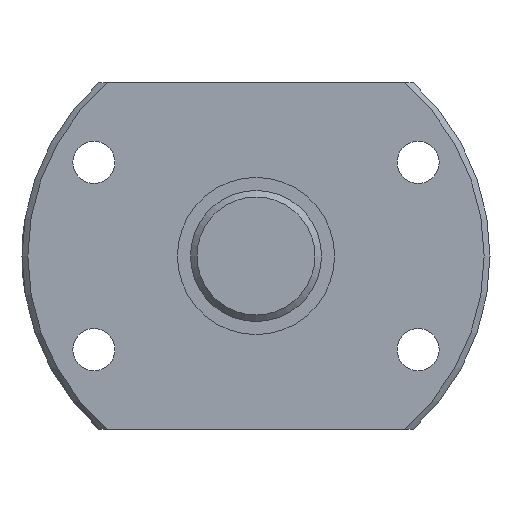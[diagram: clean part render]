
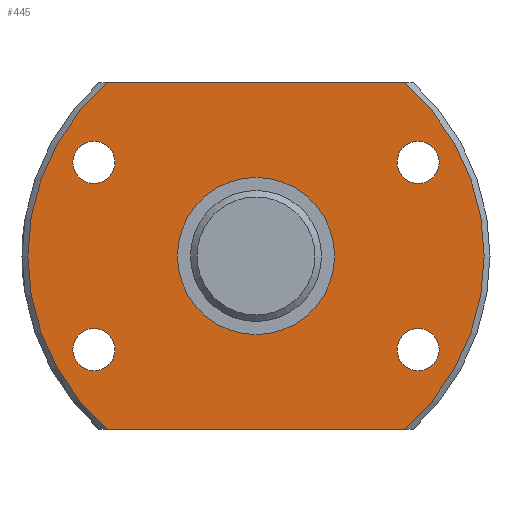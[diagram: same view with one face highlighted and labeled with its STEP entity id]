
A CAD part, left-side view. The second image highlights one B-rep face of the part: STEP entity #445.
In plain terms, the highlighted planar face has unit normal (-1, 0, 0).
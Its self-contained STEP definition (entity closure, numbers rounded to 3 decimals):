
#32=LINE('',#786,#40);
#33=LINE('',#790,#41);
#40=VECTOR('',#613,1000.);
#41=VECTOR('',#616,1000.);
#66=PLANE('',#515);
#102=ORIENTED_EDGE('',*,*,#196,.T.);
#103=ORIENTED_EDGE('',*,*,#197,.F.);
#104=ORIENTED_EDGE('',*,*,#198,.F.);
#105=ORIENTED_EDGE('',*,*,#199,.F.);
#106=ORIENTED_EDGE('',*,*,#186,.F.);
#107=ORIENTED_EDGE('',*,*,#200,.T.);
#108=ORIENTED_EDGE('',*,*,#201,.T.);
#109=ORIENTED_EDGE('',*,*,#202,.T.);
#110=ORIENTED_EDGE('',*,*,#203,.T.);
#186=EDGE_CURVE('',#234,#235,#273,.T.);
#196=EDGE_CURVE('',#244,#244,#278,.T.);
#197=EDGE_CURVE('',#245,#234,#32,.T.);
#198=EDGE_CURVE('',#246,#245,#279,.T.);
#199=EDGE_CURVE('',#235,#246,#33,.T.);
#200=EDGE_CURVE('',#247,#247,#280,.T.);
#201=EDGE_CURVE('',#248,#248,#281,.T.);
#202=EDGE_CURVE('',#249,#249,#282,.T.);
#203=EDGE_CURVE('',#250,#250,#283,.T.);
#234=VERTEX_POINT('',#738);
#235=VERTEX_POINT('',#740);
#244=VERTEX_POINT('',#785);
#245=VERTEX_POINT('',#787);
#246=VERTEX_POINT('',#789);
#247=VERTEX_POINT('',#792);
#248=VERTEX_POINT('',#794);
#249=VERTEX_POINT('',#796);
#250=VERTEX_POINT('',#798);
#273=CIRCLE('',#508,24.375);
#278=CIRCLE('',#516,8.4);
#279=CIRCLE('',#517,24.375);
#280=CIRCLE('',#518,2.25);
#281=CIRCLE('',#519,2.25);
#282=CIRCLE('',#520,2.25);
#283=CIRCLE('',#521,2.25);
#314=EDGE_LOOP('',(#102));
#315=EDGE_LOOP('',(#103,#104,#105,#106));
#316=EDGE_LOOP('',(#107));
#317=EDGE_LOOP('',(#108));
#318=EDGE_LOOP('',(#109));
#319=EDGE_LOOP('',(#110));
#376=FACE_BOUND('',#314,.T.);
#377=FACE_BOUND('',#315,.T.);
#378=FACE_BOUND('',#316,.T.);
#379=FACE_BOUND('',#317,.T.);
#380=FACE_BOUND('',#318,.T.);
#381=FACE_BOUND('',#319,.T.);
#445=ADVANCED_FACE('',(#376,#377,#378,#379,#380,#381),#66,.T.);
#508=AXIS2_PLACEMENT_3D('',#739,#593,#594);
#515=AXIS2_PLACEMENT_3D('',#783,#609,#610);
#516=AXIS2_PLACEMENT_3D('',#784,#611,#612);
#517=AXIS2_PLACEMENT_3D('',#788,#614,#615);
#518=AXIS2_PLACEMENT_3D('',#791,#617,#618);
#519=AXIS2_PLACEMENT_3D('',#793,#619,#620);
#520=AXIS2_PLACEMENT_3D('',#795,#621,#622);
#521=AXIS2_PLACEMENT_3D('',#797,#623,#624);
#593=DIRECTION('',(1.,0.,0.));
#594=DIRECTION('',(0.,0.,-1.));
#609=DIRECTION('',(-1.,0.,0.));
#610=DIRECTION('',(0.,0.,1.));
#611=DIRECTION('',(1.,0.,0.));
#612=DIRECTION('',(0.,0.,-1.));
#613=DIRECTION('',(0.,-1.,0.));
#614=DIRECTION('',(1.,0.,0.));
#615=DIRECTION('',(0.,0.,-1.));
#616=DIRECTION('',(0.,1.,0.));
#617=DIRECTION('',(1.,0.,0.));
#618=DIRECTION('',(0.,0.,-1.));
#619=DIRECTION('',(1.,0.,0.));
#620=DIRECTION('',(0.,0.,-1.));
#621=DIRECTION('',(1.,0.,0.));
#622=DIRECTION('',(0.,0.,-1.));
#623=DIRECTION('',(1.,0.,0.));
#624=DIRECTION('',(0.,0.,-1.));
#738=CARTESIAN_POINT('',(0.,-15.871,18.5));
#739=CARTESIAN_POINT('',(0.,0.,0.));
#740=CARTESIAN_POINT('',(0.,-15.871,-18.5));
#783=CARTESIAN_POINT('',(0.,24.375,0.));
#784=CARTESIAN_POINT('',(0.,0.,0.));
#785=CARTESIAN_POINT('',(0.,0.,-8.4));
#786=CARTESIAN_POINT('',(0.,25.1,18.5));
#787=CARTESIAN_POINT('',(0.,15.871,18.5));
#788=CARTESIAN_POINT('',(0.,0.,0.));
#789=CARTESIAN_POINT('',(0.,15.871,-18.5));
#790=CARTESIAN_POINT('',(0.,-25.1,-18.5));
#791=CARTESIAN_POINT('',(0.,-17.321,10.));
#792=CARTESIAN_POINT('',(0.,-17.321,7.75));
#793=CARTESIAN_POINT('',(0.,-17.321,-10.));
#794=CARTESIAN_POINT('',(0.,-17.321,-12.25));
#795=CARTESIAN_POINT('',(0.,17.321,-10.));
#796=CARTESIAN_POINT('',(0.,17.321,-12.25));
#797=CARTESIAN_POINT('',(0.,17.321,10.));
#798=CARTESIAN_POINT('',(0.,17.321,7.75));
